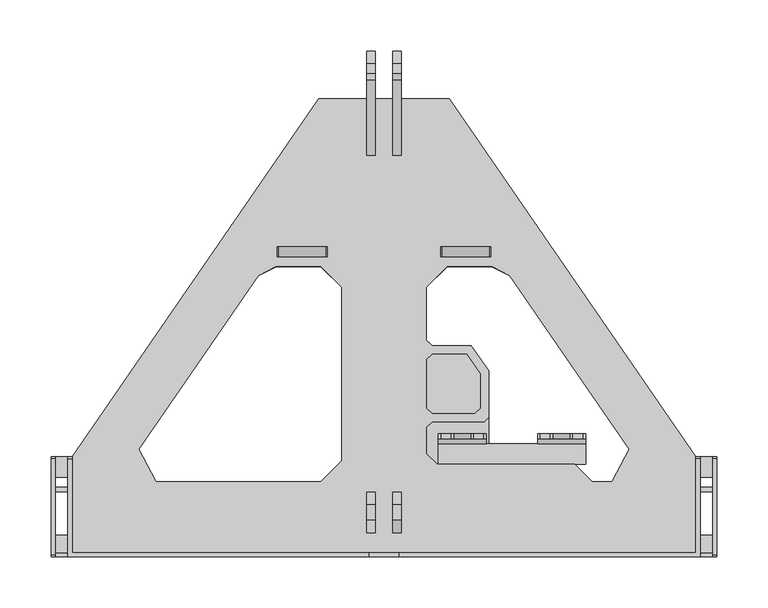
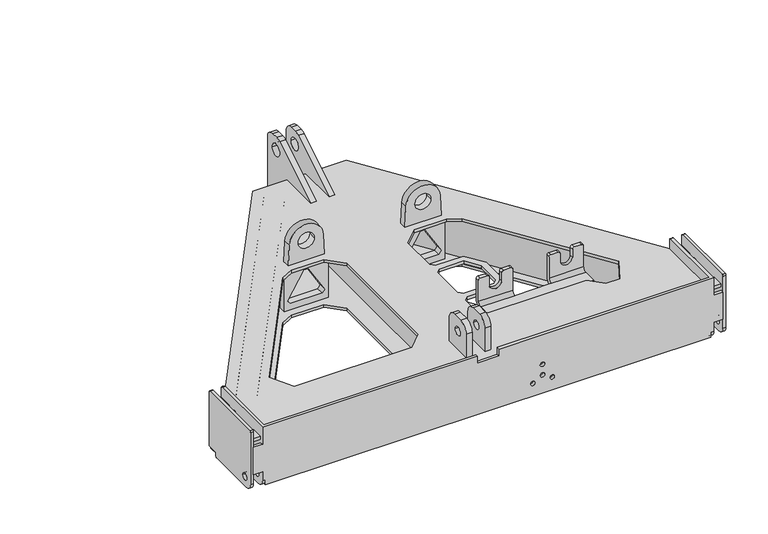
"""IFC4 building model written with IfcOpenShell, lengths in millimetres: proxy geometry, d&b SL-Series XSL Flying Frame : XSL Flying Frame."""

from ifc_helpers import new_model, si_unit, point, frame, frame_2d, origin, origin_2d, place, context, project, spatial, polyline, circle_curve, trimmed, segment, composite_curve, outline, extrude, source, transform, mapped, element, save
from ifc_brep_helpers import plane_surface, cylinder_surface, revolved_surface, advanced_brep


def communication_devices_4d89ff1e(model_context):
    return source(origin(), model_context, "Body", "SolidModel", [
        extrude(outline(polyline([(33.3590884, 410.2339132), (36.6525081, 412.5040204), (272.1761265, 70.8117243), (268.8827068, 68.5416171), (33.3590884, 410.2339132)])), frame((0.0, 0.0, -7.0), z_axis=(0.0, 0.0, 1.0), x_axis=(1.0, 0.0, 0.0)), (0.0, 0.0, 1.0), 61.0),
        extrude(outline(polyline([(0.0, -415.0), (0.0, 0.0), (61.0, 0.0), (61.0, -415.0), (0.0, -415.0)]), holes=[composite_curve([segment(trimmed(circle_curve(frame_2d((37.4760982, -170.1243666)), 12.2), [point((37.4760982, -157.9243666))], [point((37.4760982, -182.3243666))], True, "CARTESIAN"), True, "CONTINUOUS"), segment(trimmed(circle_curve(frame_2d((37.4760982, -170.1243666)), 12.2), [point((37.4760982, -182.3243666))], [point((37.4760982, -157.9243666))], True, "CARTESIAN"), True, "CONTINUOUS")], self_intersect=False)]), frame((53.9429617, 424.422083, 54.0), z_axis=(0.8233549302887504, 0.5675267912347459, 0.0), x_axis=(0.0, 0.0, -1.0)), (0.0, 0.0, 1.0), 4.0),
        extrude(outline(polyline([(-33.3590884, 410.2339132), (-268.8827068, 68.5416171), (-272.1761265, 70.8117243), (-36.6525081, 412.5040204), (-33.3590884, 410.2339132)])), frame((0.0, 0.0, -7.0), z_axis=(0.0, 0.0, 1.0), x_axis=(1.0, 0.0, 0.0)), (0.0, 0.0, 1.0), 61.0),
        extrude(outline(polyline([(-292.7599998, 84.9998941), (-57.2363814, 426.6921901), (-53.9429617, 424.422083), (-289.46658, 82.7297869), (-292.7599998, 84.9998941)])), frame((0.0, 0.0, -7.0), z_axis=(0.0, 0.0, 1.0), x_axis=(1.0, 0.0, 0.0)), (0.0, 0.0, 1.0), 61.0),
        advanced_brep(
        [(100.25, 102.0, 59.0), (100.25, 102.0, 89.5), (97.75, 102.0, 92.0), (87.75, 102.0, 92.0), (85.25, 102.0, 89.5), (85.25, 102.0, 78.0053116), (68.25, 102.0, 78.0053116), (68.25, 102.0, 89.4947994), (65.7447994, 102.0, 92.0), (55.7884157, 102.0, 92.0), (53.25, 102.0, 89.4615843), (53.25, 102.0, 59.0), (53.25, 107.0, 59.0), (53.25, 107.0, 89.4615843), (55.7884157, 107.0, 92.0), (65.7447994, 107.0, 92.0), (68.25, 107.0, 89.4947994), (68.25, 107.0, 78.0053116), (85.25, 107.0, 78.0053116), (85.25, 107.0, 89.5), (87.75, 107.0, 92.0), (97.75, 107.0, 92.0), (100.25, 107.0, 89.5), (100.25, 107.0, 59.0), (100.25, 97.0, 54.2), (100.25, 97.0, 49.0), (53.25, 97.0, 49.0), (53.25, 77.0, 49.0), (53.25, 77.0, 54.2), (53.25, 97.0, 54.2), (197.25, 97.0, 49.0), (197.25, 107.0, 59.0), (197.25, 107.0, 89.5), (197.25, 102.0, 89.5), (197.25, 102.0, 59.0), (197.25, 97.0, 54.2), (197.25, 77.0, 54.2), (197.25, 77.0, 49.0), (150.25, 97.0, 54.2), (150.25, 102.0, 59.0), (150.25, 102.0, 89.4615843), (150.25, 107.0, 89.4615843), (150.25, 107.0, 59.0), (150.25, 97.0, 49.0), (194.75, 102.0, 92.0), (184.75, 102.0, 92.0), (182.25, 102.0, 89.5), (182.25, 102.0, 78.0053116), (165.25, 102.0, 78.0053116), (165.25, 102.0, 89.4947994), (162.7447994, 102.0, 92.0), (152.7884157, 102.0, 92.0), (152.7884157, 107.0, 92.0), (162.7447994, 107.0, 92.0), (165.25, 107.0, 89.4947994), (165.25, 107.0, 78.0053116), (182.25, 107.0, 78.0053116), (182.25, 107.0, 89.5), (184.75, 107.0, 92.0), (194.75, 107.0, 92.0)],
        [
            (0, 1),
            (1, 2, circle_curve(frame((97.75, 102.0, 89.5), z_axis=(0.0, -1.0, 0.0), x_axis=(0.0, 0.0, -1.0)), 2.5)),
            (2, 3),
            (3, 4, circle_curve(frame((87.75, 102.0, 89.5), z_axis=(0.0, -1.0, 0.0), x_axis=(0.0, 0.0, -1.0)), 2.5)),
            (4, 5),
            (5, 6, circle_curve(frame((76.75, 102.0, 78.0053116), z_axis=(0.0, 1.0, 0.0), x_axis=(0.0, 0.0, -1.0)), 8.5)),
            (6, 7),
            (7, 8, circle_curve(frame((65.7447994, 102.0, 89.4947994), z_axis=(0.0, -1.0, 0.0), x_axis=(0.0, 0.0, -1.0)), 2.5052006)),
            (8, 9),
            (9, 10, circle_curve(frame((55.7884157, 102.0, 89.4615843), z_axis=(0.0, -1.0, 0.0), x_axis=(0.0, 0.0, -1.0)), 2.5384157)),
            (10, 11),
            (11, 0),
            (12, 13),
            (13, 14, circle_curve(frame((55.7884157, 107.0, 89.4615843), z_axis=(0.0, 1.0, 0.0), x_axis=(0.0, 0.0, -1.0)), 2.5384157)),
            (14, 15),
            (15, 16, circle_curve(frame((65.7447994, 107.0, 89.4947994), z_axis=(0.0, 1.0, 0.0), x_axis=(0.0, 0.0, -1.0)), 2.5052006)),
            (16, 17),
            (17, 18, circle_curve(frame((76.75, 107.0, 78.0053116), z_axis=(0.0, -1.0, 0.0), x_axis=(0.0, 0.0, -1.0)), 8.5)),
            (18, 19),
            (19, 20, circle_curve(frame((87.75, 107.0, 89.5), z_axis=(0.0, 1.0, 0.0), x_axis=(0.0, 0.0, -1.0)), 2.5)),
            (20, 21),
            (21, 22, circle_curve(frame((97.75, 107.0, 89.5), z_axis=(0.0, 1.0, 0.0), x_axis=(0.0, 0.0, -1.0)), 2.5)),
            (22, 23),
            (23, 12),
            (0, 24, circle_curve(frame((100.25, 97.196, 59.0), z_axis=(-1.0, 0.0, 0.0), x_axis=(0.0, 1.0, 0.0)), 4.804)),
            (24, 25),
            (25, 23, circle_curve(frame((100.25, 97.0, 59.0), z_axis=(1.0, 0.0, 0.0), x_axis=(0.0, 1.0, 0.0)), 10.0)),
            (22, 1),
            (21, 2),
            (20, 3),
            (19, 4),
            (18, 5),
            (17, 6),
            (16, 7),
            (15, 8),
            (14, 9),
            (13, 10),
            (12, 26, circle_curve(frame((53.25, 97.0, 59.0), z_axis=(-1.0, 0.0, 0.0), x_axis=(0.0, 1.0, 0.0)), 10.0)),
            (26, 27),
            (27, 28),
            (28, 29),
            (29, 11, circle_curve(frame((53.25, 97.196, 59.0), z_axis=(1.0, 0.0, 0.0), x_axis=(0.0, 1.0, 0.0)), 4.804)),
            (25, 26),
            (29, 24),
            (30, 31, circle_curve(frame((197.25, 97.0, 59.0), z_axis=(1.0, 0.0, 0.0), x_axis=(0.0, 1.0, 0.0)), 10.0)),
            (31, 32),
            (32, 33),
            (33, 34),
            (34, 35, circle_curve(frame((197.25, 97.196, 59.0), z_axis=(-1.0, 0.0, 0.0), x_axis=(0.0, 1.0, 0.0)), 4.804)),
            (35, 36),
            (36, 37),
            (37, 30),
            (38, 39, circle_curve(frame((150.25, 97.196, 59.0), z_axis=(1.0, 0.0, 0.0), x_axis=(0.0, 1.0, 0.0)), 4.804)),
            (39, 40),
            (40, 41),
            (41, 42),
            (42, 43, circle_curve(frame((150.25, 97.0, 59.0), z_axis=(-1.0, 0.0, 0.0), x_axis=(0.0, 1.0, 0.0)), 10.0)),
            (43, 38),
            (30, 43),
            (42, 31),
            (34, 39),
            (38, 35),
            (28, 36),
            (38, 24),
            (37, 27),
            (25, 43),
            (33, 44, circle_curve(frame((194.75, 102.0, 89.5), z_axis=(0.0, -1.0, 0.0), x_axis=(0.0, 0.0, -1.0)), 2.5)),
            (44, 45),
            (45, 46, circle_curve(frame((184.75, 102.0, 89.5), z_axis=(0.0, -1.0, 0.0), x_axis=(0.0, 0.0, -1.0)), 2.5)),
            (46, 47),
            (47, 48, circle_curve(frame((173.75, 102.0, 78.0053116), z_axis=(0.0, 1.0, 0.0), x_axis=(0.0, 0.0, -1.0)), 8.5)),
            (48, 49),
            (49, 50, circle_curve(frame((162.7447994, 102.0, 89.4947994), z_axis=(0.0, -1.0, 0.0), x_axis=(0.0, 0.0, -1.0)), 2.5052006)),
            (50, 51),
            (51, 40, circle_curve(frame((152.7884157, 102.0, 89.4615843), z_axis=(0.0, -1.0, 0.0), x_axis=(0.0, 0.0, -1.0)), 2.5384157)),
            (41, 52, circle_curve(frame((152.7884157, 107.0, 89.4615843), z_axis=(0.0, 1.0, 0.0), x_axis=(0.0, 0.0, -1.0)), 2.5384157)),
            (52, 53),
            (53, 54, circle_curve(frame((162.7447994, 107.0, 89.4947994), z_axis=(0.0, 1.0, 0.0), x_axis=(0.0, 0.0, -1.0)), 2.5052006)),
            (54, 55),
            (55, 56, circle_curve(frame((173.75, 107.0, 78.0053116), z_axis=(0.0, -1.0, 0.0), x_axis=(0.0, 0.0, -1.0)), 8.5)),
            (56, 57),
            (57, 58, circle_curve(frame((184.75, 107.0, 89.5), z_axis=(0.0, 1.0, 0.0), x_axis=(0.0, 0.0, -1.0)), 2.5)),
            (58, 59),
            (59, 32, circle_curve(frame((194.75, 107.0, 89.5), z_axis=(0.0, 1.0, 0.0), x_axis=(0.0, 0.0, -1.0)), 2.5)),
            (59, 44),
            (58, 45),
            (57, 46),
            (56, 47),
            (55, 48),
            (54, 49),
            (53, 50),
            (52, 51),
        ],
        [
            plane_surface(frame((100.25, 102.0, 59.0), z_axis=(0.0, -1.0, 0.0), x_axis=(0.0, 0.0, 1.0))),
            plane_surface(frame((100.25, 107.0, 59.0), z_axis=(0.0, 1.0, 0.0), x_axis=(0.0, 0.0, -1.0))),
            plane_surface(frame((100.25, 102.0, 59.0), z_axis=(1.0, 0.0, 0.0), x_axis=(0.0, 1.0, 0.0))),
            cylinder_surface(frame((97.75, 107.0, 89.5), z_axis=(0.0, -1.0, 0.0), x_axis=(0.0, 0.0, -1.0)), 2.5),
            plane_surface(frame((97.75, 102.0, 92.0), z_axis=(0.0, 0.0, 1.0), x_axis=(0.0, 1.0, 0.0))),
            cylinder_surface(frame((87.75, 107.0, 89.5), z_axis=(0.0, -1.0, 0.0), x_axis=(0.0, 0.0, -1.0)), 2.5),
            plane_surface(frame((85.25, 102.0, 89.5), z_axis=(-1.0, 0.0, 0.0), x_axis=(0.0, 1.0, 0.0))),
            revolved_surface(polyline([(76.75, 107.0, 69.5053116), (76.75, 102.0, 69.5053116)]), (76.75, 107.0, 78.0053116), (0.0, 1.0, 0.0)),
            plane_surface(frame((68.25, 102.0, 78.0053116), z_axis=(1.0, 0.0, 0.0), x_axis=(0.0, 1.0, 0.0))),
            cylinder_surface(frame((65.7447994, 107.0, 89.4947994), z_axis=(0.0, -1.0, 0.0), x_axis=(0.0, 0.0, -1.0)), 2.5052006),
            plane_surface(frame((65.7447994, 102.0, 92.0), z_axis=(0.0, 0.0, 1.0), x_axis=(0.0, 1.0, 0.0))),
            cylinder_surface(frame((55.7884157, 107.0, 89.4615843), z_axis=(0.0, -1.0, 0.0), x_axis=(0.0, 0.0, -1.0)), 2.5384157),
            plane_surface(frame((53.25, 102.0, 89.4615843), z_axis=(-1.0, 0.0, 0.0), x_axis=(0.0, 1.0, 0.0))),
            cylinder_surface(frame((53.25, 97.0, 59.0), z_axis=(1.0, 0.0, 0.0), x_axis=(0.0, 1.0, 0.0)), 10.0),
            revolved_surface(polyline([(53.25, 102.0, 59.0), (100.25, 102.0, 59.0)]), (53.25, 97.196, 59.0), (-1.0, 0.0, 0.0)),
            plane_surface(frame((197.25, 107.0, 59.0), z_axis=(1.0, 0.0, 0.0), x_axis=(0.0, 0.0, 1.0))),
            plane_surface(frame((150.25, 107.0, 59.0), z_axis=(-1.0, 0.0, 0.0), x_axis=(0.0, 0.0, -1.0))),
            cylinder_surface(frame((150.25, 97.0, 59.0), z_axis=(1.0, 0.0, 0.0), x_axis=(0.0, 1.0, 0.0)), 10.0),
            revolved_surface(polyline([(150.25, 102.0, 59.0), (197.25, 102.0, 59.0)]), (150.25, 97.196, 59.0), (-1.0, 0.0, 0.0)),
            plane_surface(frame((102.7499965, 97.0, 54.2), z_axis=(0.0, 0.0, 1.0), x_axis=(-1.0, 0.0, 0.0))),
            plane_surface(frame((102.7499965, 97.0, 49.0), z_axis=(0.0, 0.0, -1.0), x_axis=(1.0, 0.0, 0.0))),
            plane_surface(frame((197.25, 97.0, 54.2), z_axis=(0.0, 1.0, 0.0), x_axis=(0.0, 0.0, -1.0))),
            plane_surface(frame((53.25, 77.0, 54.2), z_axis=(0.0, -1.0, 0.0), x_axis=(0.0, 0.0, -1.0))),
            plane_surface(frame((197.25, 102.0, 59.0), z_axis=(0.0, -1.0, 0.0), x_axis=(0.0, 0.0, 1.0))),
            plane_surface(frame((197.25, 107.0, 59.0), z_axis=(0.0, 1.0, 0.0), x_axis=(0.0, 0.0, -1.0))),
            cylinder_surface(frame((194.75, 107.0, 89.5), z_axis=(0.0, -1.0, 0.0), x_axis=(0.0, 0.0, -1.0)), 2.5),
            plane_surface(frame((194.75, 102.0, 92.0), z_axis=(0.0, 0.0, 1.0), x_axis=(0.0, 1.0, 0.0))),
            cylinder_surface(frame((184.75, 107.0, 89.5), z_axis=(0.0, -1.0, 0.0), x_axis=(0.0, 0.0, -1.0)), 2.5),
            plane_surface(frame((182.25, 102.0, 89.5), z_axis=(-1.0, 0.0, 0.0), x_axis=(0.0, 1.0, 0.0))),
            revolved_surface(polyline([(173.75, 107.0, 69.5053116), (173.75, 102.0, 69.5053116)]), (173.75, 107.0, 78.0053116), (0.0, 1.0, 0.0)),
            plane_surface(frame((165.25, 102.0, 78.0053116), z_axis=(1.0, 0.0, 0.0), x_axis=(0.0, 1.0, 0.0))),
            cylinder_surface(frame((162.7447994, 107.0, 89.4947994), z_axis=(0.0, -1.0, 0.0), x_axis=(0.0, 0.0, -1.0)), 2.5052006),
            plane_surface(frame((162.7447994, 102.0, 92.0), z_axis=(0.0, 0.0, 1.0), x_axis=(0.0, 1.0, 0.0))),
            cylinder_surface(frame((152.7884157, 107.0, 89.4615843), z_axis=(0.0, -1.0, 0.0), x_axis=(0.0, 0.0, -1.0)), 2.5384157),
        ],
        [
            (0, [[1, 2, 3, 4, 5, 6, 7, 8, 9, 10, 11, 12]]),
            (1, [[13, 14, 15, 16, 17, 18, 19, 20, 21, 22, 23, 24]]),
            (2, [[-1, 25, 26, 27, -23, 28]]),
            (3, [[-2, -28, -22, 29]]),
            (4, [[-3, -29, -21, 30]]),
            (5, [[-4, -30, -20, 31]]),
            (6, [[-5, -31, -19, 32]]),
            (7, [[-6, -32, -18, 33]]),
            (8, [[-7, -33, -17, 34]]),
            (9, [[-8, -34, -16, 35]]),
            (10, [[-9, -35, -15, 36]]),
            (11, [[-10, -36, -14, 37]]),
            (12, [[-11, -37, -13, 38, 39, 40, 41, 42]]),
            (13, [[-27, 43, -38, -24]]),
            (14, [[-25, -12, -42, 44]]),
            (15, [[45, 46, 47, 48, 49, 50, 51, 52]]),
            (16, [[53, 54, 55, 56, 57, 58]]),
            (17, [[-45, 59, -57, 60]]),
            (18, [[-49, 61, -53, 62]]),
            (19, [[-41, 63, -50, -62, 64, -44]]),
            (20, [[-52, 65, -39, -43, 66, -59]]),
            (21, [[-64, -58, -66, -26]]),
            (22, [[-63, -40, -65, -51]]),
            (23, [[-48, 67, 68, 69, 70, 71, 72, 73, 74, 75, -54, -61]]),
            (24, [[-56, 76, 77, 78, 79, 80, 81, 82, 83, 84, -46, -60]]),
            (25, [[-67, -47, -84, 85]]),
            (26, [[-68, -85, -83, 86]]),
            (27, [[-69, -86, -82, 87]]),
            (28, [[-70, -87, -81, 88]]),
            (29, [[-71, -88, -80, 89]]),
            (30, [[-72, -89, -79, 90]]),
            (31, [[-73, -90, -78, 91]]),
            (32, [[-74, -91, -77, 92]]),
            (33, [[-75, -92, -76, -55]]),
        ],
    ),
        extrude(outline(polyline([(54.0, -50.0), (54.0, -110.0), (-7.0, -110.0), (-7.0, -50.0), (54.0, -50.0)]), holes=[polyline([(44.5, -77.2168689), (6.8638503, -54.6407459), (2.5, -58.1309795), (2.5, -101.8690205), (6.8638503, -105.3592541), (44.5, -82.7831311), (44.5, -77.2168689)])]), frame((0.0, 280.0, 0.0), z_axis=(0.0, 1.0, 0.0), x_axis=(0.0, 0.0, 1.0)), (0.0, 0.0, 1.0), 10.0),
        extrude(outline(polyline([(54.0, 50.0), (-7.0, 50.0), (-7.0, 110.0), (54.0, 110.0), (54.0, 50.0)]), holes=[polyline([(44.5, 77.2168689), (44.5, 82.7831311), (6.8638503, 105.3592541), (2.5, 101.8690205), (2.5, 58.1309795), (6.8638503, 54.6407459), (44.5, 77.2168689)])]), frame((0.0, 280.0, 0.0), z_axis=(0.0, 1.0, 0.0), x_axis=(0.0, 0.0, 1.0)), (0.0, 0.0, 1.0), 10.0),
        extrude(outline(composite_curve([segment(polyline([(54.25, -7.0), (54.25, 54.0), (434.5, 54.0), (434.5, 58.0), (379.2840956, 58.0), (452.524521, 102.6031015)]), True, "CONTINUOUS"), segment(trimmed(circle_curve(frame_2d((459.2862617, 91.5)), 13.0), [point((452.524521, 102.6031015))], [point((459.2862617, 104.5))], False, "CARTESIAN"), True, "CONTINUOUS"), segment(polyline([(459.2862617, 104.5), (468.75, 104.5)]), True, "CONTINUOUS"), segment(trimmed(circle_curve(frame_2d((468.75, 92.0)), 12.5), [point((468.75, 104.5))], [point((481.25, 92.0))], False, "CARTESIAN"), True, "CONTINUOUS"), segment(polyline([(481.25, 92.0), (481.25, 5.0)]), True, "CONTINUOUS"), segment(trimmed(circle_curve(frame_2d((469.25, 5.0)), 12.0), [point((481.25, 5.0))], [point((469.25, -7.0))], False, "CARTESIAN"), True, "CONTINUOUS"), segment(polyline([(469.25, -7.0), (54.25, -7.0)]), True, "CONTINUOUS")], self_intersect=False), holes=[composite_curve([segment(trimmed(circle_curve(frame_2d((461.25, 10.9847305)), 8.5), [point((452.75, 10.9847305))], [point((469.75, 10.9847305))], True, "CARTESIAN"), True, "CONTINUOUS"), segment(trimmed(circle_curve(frame_2d((461.25, 10.9847305)), 8.5), [point((469.75, 10.9847305))], [point((452.75, 10.9847305))], True, "CARTESIAN"), True, "CONTINUOUS")], self_intersect=False), composite_curve([segment(trimmed(circle_curve(frame_2d((461.25, 85.0029766)), 8.5), [point((452.75, 85.0029766))], [point((469.75, 85.0029766))], True, "CARTESIAN"), True, "CONTINUOUS"), segment(trimmed(circle_curve(frame_2d((461.25, 85.0029766)), 8.5), [point((469.75, 85.0029766))], [point((452.75, 85.0029766))], True, "CARTESIAN"), True, "CONTINUOUS")], self_intersect=False)]), frame((-16.75, 0.0, 0.0), z_axis=(1.0, 0.0, 0.0), x_axis=(0.0, 1.0, 0.0)), (0.0, 0.0, 1.0), 8.0),
        extrude(outline(composite_curve([segment(polyline([(49.75, 58.0), (9.75, 58.0), (9.75, 92.0)]), True, "CONTINUOUS"), segment(trimmed(circle_curve(frame_2d((22.25, 92.0)), 12.5), [point((9.75, 92.0))], [point((22.25, 104.5))], False, "CARTESIAN"), True, "CONTINUOUS"), segment(polyline([(22.25, 104.5), (37.25, 104.5)]), True, "CONTINUOUS"), segment(trimmed(circle_curve(frame_2d((37.25, 92.0)), 12.5), [point((37.25, 104.5))], [point((49.75, 92.0))], False, "CARTESIAN"), True, "CONTINUOUS"), segment(polyline([(49.75, 92.0), (49.75, 58.0)]), True, "CONTINUOUS")], self_intersect=False), holes=[composite_curve([segment(trimmed(circle_curve(frame_2d((29.75, 84.5800468)), 5.9), [point((23.85, 84.5800468))], [point((35.65, 84.5800468))], True, "CARTESIAN"), True, "CONTINUOUS"), segment(trimmed(circle_curve(frame_2d((29.75, 84.5800468)), 5.9), [point((35.65, 84.5800468))], [point((23.85, 84.5800468))], True, "CARTESIAN"), True, "CONTINUOUS")], self_intersect=False)]), frame((-16.75, 0.0, 0.0), z_axis=(1.0, 0.0, 0.0), x_axis=(0.0, 1.0, 0.0)), (0.0, 0.0, 1.0), 8.0),
        extrude(outline(composite_curve([segment(polyline([(54.25, -7.0), (54.25, 54.0), (434.5, 54.0), (434.5, 58.0), (379.2840956, 58.0), (452.524521, 102.6031015)]), True, "CONTINUOUS"), segment(trimmed(circle_curve(frame_2d((459.2862617, 91.5)), 13.0), [point((452.524521, 102.6031015))], [point((459.2862617, 104.5))], False, "CARTESIAN"), True, "CONTINUOUS"), segment(polyline([(459.2862617, 104.5), (468.75, 104.5)]), True, "CONTINUOUS"), segment(trimmed(circle_curve(frame_2d((468.75, 92.0)), 12.5), [point((468.75, 104.5))], [point((481.25, 92.0))], False, "CARTESIAN"), True, "CONTINUOUS"), segment(polyline([(481.25, 92.0), (481.25, 5.0)]), True, "CONTINUOUS"), segment(trimmed(circle_curve(frame_2d((469.25, 5.0)), 12.0), [point((481.25, 5.0))], [point((469.25, -7.0))], False, "CARTESIAN"), True, "CONTINUOUS"), segment(polyline([(469.25, -7.0), (54.25, -7.0)]), True, "CONTINUOUS")], self_intersect=False), holes=[composite_curve([segment(trimmed(circle_curve(frame_2d((461.25, 85.0029766)), 8.5), [point((452.75, 85.0029766))], [point((469.75, 85.0029766))], True, "CARTESIAN"), True, "CONTINUOUS"), segment(trimmed(circle_curve(frame_2d((461.25, 85.0029766)), 8.5), [point((469.75, 85.0029766))], [point((452.75, 85.0029766))], True, "CARTESIAN"), True, "CONTINUOUS")], self_intersect=False), composite_curve([segment(trimmed(circle_curve(frame_2d((461.25, 10.9847305)), 8.5), [point((452.75, 10.9847305))], [point((469.75, 10.9847305))], True, "CARTESIAN"), True, "CONTINUOUS"), segment(trimmed(circle_curve(frame_2d((461.25, 10.9847305)), 8.5), [point((469.75, 10.9847305))], [point((452.75, 10.9847305))], True, "CARTESIAN"), True, "CONTINUOUS")], self_intersect=False)]), frame((8.75, 0.0, 0.0), z_axis=(1.0, 0.0, 0.0), x_axis=(0.0, 1.0, 0.0)), (0.0, 0.0, 1.0), 8.0),
        extrude(outline(composite_curve([segment(polyline([(49.75, 58.0), (9.75, 58.0), (9.75, 92.0)]), True, "CONTINUOUS"), segment(trimmed(circle_curve(frame_2d((22.25, 92.0)), 12.5), [point((9.75, 92.0))], [point((22.25, 104.5))], False, "CARTESIAN"), True, "CONTINUOUS"), segment(polyline([(22.25, 104.5), (37.25, 104.5)]), True, "CONTINUOUS"), segment(trimmed(circle_curve(frame_2d((37.25, 92.0)), 12.5), [point((37.25, 104.5))], [point((49.75, 92.0))], False, "CARTESIAN"), True, "CONTINUOUS"), segment(polyline([(49.75, 92.0), (49.75, 58.0)]), True, "CONTINUOUS")], self_intersect=False), holes=[composite_curve([segment(trimmed(circle_curve(frame_2d((29.75, 84.5800468)), 5.9), [point((23.85, 84.5800468))], [point((35.65, 84.5800468))], True, "CARTESIAN"), True, "CONTINUOUS"), segment(trimmed(circle_curve(frame_2d((29.75, 84.5800468)), 5.9), [point((35.65, 84.5800468))], [point((23.85, 84.5800468))], True, "CARTESIAN"), True, "CONTINUOUS")], self_intersect=False)]), frame((8.75, 0.0, 0.0), z_axis=(1.0, 0.0, 0.0), x_axis=(0.0, 1.0, 0.0)), (0.0, 0.0, 1.0), 8.0),
        extrude(outline(composite_curve([segment(polyline([(87.1237421, -103.4731537), (58.0, -104.8156191), (58.0, -55.1843809), (87.1237421, -56.5268463)]), True, "CONTINUOUS"), segment(trimmed(circle_curve(frame_2d((86.0417417, -80.0)), 23.4980779), [point((87.1237421, -56.5268463))], [point((87.1237421, -103.4731537))], False, "CARTESIAN"), True, "CONTINUOUS")], self_intersect=False), holes=[composite_curve([segment(trimmed(circle_curve(frame_2d((86.5104917, -80.0)), 11.0379931), [point((86.5104917, -68.9620069))], [point((86.5104917, -91.0379931))], True, "CARTESIAN"), True, "CONTINUOUS"), segment(trimmed(circle_curve(frame_2d((86.5104917, -80.0)), 11.0379931), [point((86.5104917, -91.0379931))], [point((86.5104917, -68.9620069))], True, "CARTESIAN"), True, "CONTINUOUS")], self_intersect=False)]), frame((0.0, 280.0, 0.0), z_axis=(0.0, 1.0, 0.0), x_axis=(0.0, 0.0, 1.0)), (0.0, 0.0, 1.0), 10.0),
        extrude(outline(composite_curve([segment(trimmed(circle_curve(frame_2d((86.0417417, 80.0)), 23.4980779), [point((87.1237421, 103.4731537))], [point((87.1237421, 56.5268463))], False, "CARTESIAN"), True, "CONTINUOUS"), segment(polyline([(87.1237421, 56.5268463), (58.0, 55.1843809), (58.0, 104.8156191), (87.1237421, 103.4731537)]), True, "CONTINUOUS")], self_intersect=False), holes=[composite_curve([segment(trimmed(circle_curve(frame_2d((86.5104917, 80.0)), 11.0379931), [point((86.5104917, 91.0379931))], [point((86.5104917, 68.9620069))], True, "CARTESIAN"), True, "CONTINUOUS"), segment(trimmed(circle_curve(frame_2d((86.5104917, 80.0)), 11.0379931), [point((86.5104917, 68.9620069))], [point((86.5104917, 91.0379931))], True, "CARTESIAN"), True, "CONTINUOUS")], self_intersect=False)]), frame((0.0, 280.0, 0.0), z_axis=(0.0, 1.0, 0.0), x_axis=(0.0, 0.0, 1.0)), (0.0, 0.0, 1.0), 10.0),
        advanced_brep(
        [(321.75, -9.5, 48.75), (321.75, -9.5, 9.25), (309.25, -9.5, 9.25), (309.25, -9.5, 48.75), (-309.25, -9.5, 9.25), (-321.75, -9.5, 9.25), (-321.75, -9.5, 48.75), (-309.25, -9.5, 48.75), (-305.25, -9.5, 73.5), (-15.0, -9.5, 73.5), (-15.0, -9.5, 63.5), (15.0, -9.5, 63.5), (15.0, -9.5, 73.5), (305.25, -9.5, 73.5), (305.25, -9.5, 48.75), (305.25, -9.5, -3.5), (305.25, -9.5, -11.0), (-305.25, -9.5, -11.0), (-305.25, -9.5, -3.5), (-305.25, -9.5, 48.75), (71.4942183, -9.5, 30.5897525), (77.4942183, -9.5, 30.5897525), (71.4942183, -9.5, 15.2772525), (77.4942183, -9.5, 15.2772525), (58.1715903, -9.5, 7.5854296), (64.1715903, -9.5, 7.5854296), (84.8168464, -9.5, 7.5854296), (90.8168464, -9.5, 7.5854296), (-321.75, -13.5, 48.75), (-321.75, -13.5, 9.25), (-309.25, -13.5, 9.25), (-309.25, -13.5, -3.5), (-305.25, -13.5, -3.5), (-305.25, -13.5, -11.0), (305.25, -13.5, -11.0), (305.25, -13.5, -3.5), (309.25, -13.5, -3.5), (309.25, -13.5, 9.25), (321.75, -13.5, 9.25), (321.75, -13.5, 48.75), (309.25, -13.5, 48.75), (309.25, -13.5, 73.5), (15.0, -13.5, 73.5), (15.0, -13.5, 63.5), (-15.0, -13.5, 63.5), (-15.0, -13.5, 73.5), (-309.25, -13.5, 73.5), (-309.25, -13.5, 48.75), (71.4942183, -13.5, 30.5897525), (77.4942183, -13.5, 30.5897525), (71.4942183, -13.5, 15.2772525), (77.4942183, -13.5, 15.2772525), (58.1715903, -13.5, 7.5854296), (64.1715903, -13.5, 7.5854296), (84.8168464, -13.5, 7.5854296), (90.8168464, -13.5, 7.5854296), (-309.25, 82.5, 73.5), (-309.25, 84.5, 71.5), (-309.25, 84.5, -7.0), (-309.25, 64.5, -7.0), (-309.25, 64.5, -11.5), (-309.25, 62.5, -13.5), (-309.25, -3.5, -13.5), (-309.25, -4.6643921, 0.0), (-309.25, 4.6643921, 0.0), (305.25, -10.1143783, -11.0), (-305.25, -10.1143783, -11.0), (309.25, -3.5, -13.5), (309.25, 62.5, -13.5), (309.25, 64.5, -11.5), (309.25, 64.5, -7.0), (309.25, 84.5, -7.0), (309.25, 84.5, 71.5), (309.25, 82.5, 73.5), (309.25, -4.6643921, 0.0), (309.25, 4.6643921, 0.0), (305.25, 82.5, 73.5), (-305.25, -3.5, -13.5), (-305.25, 62.5, -13.5), (-305.25, 64.5, -11.5), (-305.25, 64.5, -7.0), (-305.25, 84.5, -7.0), (-305.25, 84.5, 71.5), (-305.25, 82.5, 73.5), (-305.25, -4.6643921, 0.0), (-305.25, 4.6643921, 0.0), (305.25, 84.5, 71.5), (305.25, 84.5, -7.0), (305.25, 64.5, -7.0), (305.25, 64.5, -11.5), (305.25, 62.5, -13.5), (305.25, -3.5, -13.5), (305.25, -4.6643921, 0.0), (305.25, 4.6643921, 0.0)],
        [
            (0, 1),
            (1, 2),
            (2, 3),
            (3, 0),
            (4, 5),
            (5, 6),
            (6, 7),
            (7, 4),
            (8, 9),
            (9, 10),
            (10, 11),
            (11, 12),
            (12, 13),
            (13, 14),
            (14, 15),
            (15, 16),
            (16, 17),
            (17, 18),
            (18, 19),
            (19, 8),
            (20, 21, circle_curve(frame((74.4942183, -9.5, 30.5897525), z_axis=(0.0, -1.0, 0.0), x_axis=(1.0, 0.0, 0.0)), 3.0)),
            (21, 20, circle_curve(frame((74.4942183, -9.5, 30.5897525), z_axis=(0.0, -1.0, 0.0), x_axis=(1.0, 0.0, 0.0)), 3.0)),
            (22, 23, circle_curve(frame((74.4942183, -9.5, 15.2772525), z_axis=(0.0, -1.0, 0.0), x_axis=(1.0, 0.0, 0.0)), 3.0)),
            (23, 22, circle_curve(frame((74.4942183, -9.5, 15.2772525), z_axis=(0.0, -1.0, 0.0), x_axis=(1.0, 0.0, 0.0)), 3.0)),
            (24, 25, circle_curve(frame((61.1715903, -9.5, 7.5854296), z_axis=(0.0, -1.0, 0.0), x_axis=(1.0, 0.0, 0.0)), 3.0)),
            (25, 24, circle_curve(frame((61.1715903, -9.5, 7.5854296), z_axis=(0.0, -1.0, 0.0), x_axis=(1.0, 0.0, 0.0)), 3.0)),
            (26, 27, circle_curve(frame((87.8168464, -9.5, 7.5854296), z_axis=(0.0, -1.0, 0.0), x_axis=(1.0, 0.0, 0.0)), 3.0)),
            (27, 26, circle_curve(frame((87.8168464, -9.5, 7.5854296), z_axis=(0.0, -1.0, 0.0), x_axis=(1.0, 0.0, 0.0)), 3.0)),
            (28, 29),
            (29, 30),
            (30, 31),
            (31, 32),
            (32, 33),
            (33, 34),
            (34, 35),
            (35, 36),
            (36, 37),
            (37, 38),
            (38, 39),
            (39, 40),
            (40, 41),
            (41, 42),
            (42, 43),
            (43, 44),
            (44, 45),
            (45, 46),
            (46, 47),
            (47, 28),
            (48, 49, circle_curve(frame((74.4942183, -13.5, 30.5897525), z_axis=(0.0, 1.0, 0.0), x_axis=(1.0, 0.0, 0.0)), 3.0)),
            (49, 48, circle_curve(frame((74.4942183, -13.5, 30.5897525), z_axis=(0.0, 1.0, 0.0), x_axis=(1.0, 0.0, 0.0)), 3.0)),
            (50, 51, circle_curve(frame((74.4942183, -13.5, 15.2772525), z_axis=(0.0, 1.0, 0.0), x_axis=(1.0, 0.0, 0.0)), 3.0)),
            (51, 50, circle_curve(frame((74.4942183, -13.5, 15.2772525), z_axis=(0.0, 1.0, 0.0), x_axis=(1.0, 0.0, 0.0)), 3.0)),
            (52, 53, circle_curve(frame((61.1715903, -13.5, 7.5854296), z_axis=(0.0, 1.0, 0.0), x_axis=(1.0, 0.0, 0.0)), 3.0)),
            (53, 52, circle_curve(frame((61.1715903, -13.5, 7.5854296), z_axis=(0.0, 1.0, 0.0), x_axis=(1.0, 0.0, 0.0)), 3.0)),
            (54, 55, circle_curve(frame((87.8168464, -13.5, 7.5854296), z_axis=(0.0, 1.0, 0.0), x_axis=(1.0, 0.0, 0.0)), 3.0)),
            (55, 54, circle_curve(frame((87.8168464, -13.5, 7.5854296), z_axis=(0.0, 1.0, 0.0), x_axis=(1.0, 0.0, 0.0)), 3.0)),
            (5, 29),
            (28, 6),
            (4, 30),
            (7, 47),
            (46, 56),
            (56, 57, circle_curve(frame((-309.25, 82.5, 71.5), z_axis=(-1.0, 0.0, 0.0), x_axis=(0.0, 1.0, 0.0)), 2.0)),
            (57, 58),
            (58, 59),
            (59, 60),
            (60, 61, circle_curve(frame((-309.25, 62.5, -11.5), z_axis=(-1.0, 0.0, 0.0), x_axis=(0.0, 1.0, 0.0)), 2.0)),
            (61, 62),
            (62, 31, circle_curve(frame((-309.25, -3.5, -3.5), z_axis=(-1.0, 0.0, 0.0), x_axis=(0.0, 1.0, 0.0)), 10.0)),
            (63, 64, circle_curve(frame((-309.25, 0.0, 0.0), z_axis=(1.0, 0.0, 0.0), x_axis=(0.0, 1.0, 0.0)), 4.6643921)),
            (64, 63, circle_curve(frame((-309.25, 0.0, 0.0), z_axis=(1.0, 0.0, 0.0), x_axis=(0.0, 1.0, 0.0)), 4.6643921)),
            (16, 65),
            (65, 34),
            (33, 66),
            (66, 17),
            (36, 67, circle_curve(frame((309.25, -3.5, -3.5), z_axis=(1.0, 0.0, 0.0), x_axis=(0.0, 1.0, 0.0)), 10.0)),
            (67, 68),
            (68, 69, circle_curve(frame((309.25, 62.5, -11.5), z_axis=(1.0, 0.0, 0.0), x_axis=(0.0, 1.0, 0.0)), 2.0)),
            (69, 70),
            (70, 71),
            (71, 72),
            (72, 73, circle_curve(frame((309.25, 82.5, 71.5), z_axis=(1.0, 0.0, 0.0), x_axis=(0.0, 1.0, 0.0)), 2.0)),
            (73, 41),
            (40, 3),
            (2, 37),
            (74, 75, circle_curve(frame((309.25, 0.0, 0.0), z_axis=(-1.0, 0.0, 0.0), x_axis=(0.0, 1.0, 0.0)), 4.6643921)),
            (75, 74, circle_curve(frame((309.25, 0.0, 0.0), z_axis=(-1.0, 0.0, 0.0), x_axis=(0.0, 1.0, 0.0)), 4.6643921)),
            (1, 38),
            (0, 39),
            (12, 42),
            (73, 76),
            (76, 13),
            (32, 66, circle_curve(frame((-305.25, -3.5, -3.5), z_axis=(1.0, 0.0, 0.0), x_axis=(0.0, 1.0, 0.0)), 10.0)),
            (65, 35, circle_curve(frame((305.25, -3.5, -3.5), z_axis=(-1.0, 0.0, 0.0), x_axis=(0.0, 1.0, 0.0)), 10.0)),
            (77, 78),
            (78, 79, circle_curve(frame((-305.25, 62.5, -11.5), z_axis=(1.0, 0.0, 0.0), x_axis=(0.0, 1.0, 0.0)), 2.0)),
            (79, 80),
            (80, 81),
            (81, 82),
            (82, 83, circle_curve(frame((-305.25, 82.5, 71.5), z_axis=(1.0, 0.0, 0.0), x_axis=(0.0, 1.0, 0.0)), 2.0)),
            (83, 8),
            (66, 77, circle_curve(frame((-305.25, -3.5, -3.5), z_axis=(1.0, 0.0, 0.0), x_axis=(0.0, 1.0, 0.0)), 10.0)),
            (84, 85, circle_curve(frame((-305.25, 0.0, 0.0), z_axis=(-1.0, 0.0, 0.0), x_axis=(0.0, 1.0, 0.0)), 4.6643921)),
            (85, 84, circle_curve(frame((-305.25, 0.0, 0.0), z_axis=(-1.0, 0.0, 0.0), x_axis=(0.0, 1.0, 0.0)), 4.6643921)),
            (77, 62),
            (61, 78),
            (60, 79),
            (59, 80),
            (81, 58),
            (57, 82),
            (56, 83),
            (84, 63),
            (64, 85),
            (76, 86, circle_curve(frame((305.25, 82.5, 71.5), z_axis=(-1.0, 0.0, 0.0), x_axis=(0.0, 1.0, 0.0)), 2.0)),
            (86, 87),
            (87, 88),
            (88, 89),
            (89, 90, circle_curve(frame((305.25, 62.5, -11.5), z_axis=(-1.0, 0.0, 0.0), x_axis=(0.0, 1.0, 0.0)), 2.0)),
            (90, 91),
            (91, 65, circle_curve(frame((305.25, -3.5, -3.5), z_axis=(-1.0, 0.0, 0.0), x_axis=(0.0, 1.0, 0.0)), 10.0)),
            (92, 93, circle_curve(frame((305.25, 0.0, 0.0), z_axis=(1.0, 0.0, 0.0), x_axis=(0.0, 1.0, 0.0)), 4.6643921)),
            (93, 92, circle_curve(frame((305.25, 0.0, 0.0), z_axis=(1.0, 0.0, 0.0), x_axis=(0.0, 1.0, 0.0)), 4.6643921)),
            (90, 68),
            (67, 91),
            (89, 69),
            (88, 70),
            (86, 72),
            (71, 87),
            (93, 75),
            (74, 92),
            (20, 48),
            (49, 21),
            (22, 50),
            (51, 23),
            (24, 52),
            (53, 25),
            (26, 54),
            (55, 27),
            (11, 43),
            (10, 44),
            (9, 45),
        ],
        [
            plane_surface(frame((-321.75, -9.5, -13.5), z_axis=(0.0, 1.0, 0.0), x_axis=(0.0, 0.0, 1.0))),
            plane_surface(frame((-321.75, -13.5, -13.5), z_axis=(0.0, -1.0, 0.0), x_axis=(0.0, 0.0, -1.0))),
            plane_surface(frame((-321.75, -13.5, 48.75), z_axis=(-1.0, 0.0, 0.0), x_axis=(0.0, 1.0, 0.0))),
            plane_surface(frame((-321.75, -13.5, 9.25), z_axis=(0.0, 0.0, -1.0), x_axis=(0.0, 1.0, 0.0))),
            plane_surface(frame((-309.25, -13.5, 9.25), z_axis=(-1.0, 0.0, 0.0), x_axis=(0.0, 1.0, 0.0))),
            plane_surface(frame((-305.25, -13.5, -11.0), z_axis=(0.0, 0.0, -1.0), x_axis=(0.0, 1.0, 0.0))),
            plane_surface(frame((309.25, -13.5, -3.5), z_axis=(1.0, 0.0, 0.0), x_axis=(0.0, 1.0, 0.0))),
            plane_surface(frame((309.25, -13.5, 9.25), z_axis=(0.0, 0.0, -1.0), x_axis=(0.0, 1.0, 0.0))),
            plane_surface(frame((321.75, -13.5, 9.25), z_axis=(1.0, 0.0, 0.0), x_axis=(0.0, 1.0, 0.0))),
            plane_surface(frame((321.75, -13.5, 48.75), z_axis=(0.0, 0.0, 1.0), x_axis=(0.0, 1.0, 0.0))),
            plane_surface(frame((305.25, -13.5, 73.5), z_axis=(0.0, 0.0, 1.0), x_axis=(0.0, 1.0, 0.0))),
            plane_surface(frame((-305.25, -13.5, 48.75), z_axis=(0.0, 0.0, 1.0), x_axis=(0.0, 1.0, 0.0))),
            plane_surface(frame((-305.25, -13.5, -3.5), z_axis=(-1.0, 0.0, 0.0), x_axis=(0.0, 1.0, 0.0))),
            plane_surface(frame((305.25, -13.5, -11.0), z_axis=(1.0, 0.0, 0.0), x_axis=(0.0, 1.0, 0.0))),
            plane_surface(frame((-305.25, -13.5, 73.5), z_axis=(1.0, 0.0, 0.0), x_axis=(0.0, 0.0, -1.0))),
            plane_surface(frame((-305.25, -3.5, -13.5), z_axis=(0.0, 0.0, -1.0), x_axis=(-1.0, 0.0, 0.0))),
            cylinder_surface(frame((-309.25, 62.5, -11.5), z_axis=(1.0, 0.0, 0.0), x_axis=(0.0, 1.0, 0.0)), 2.0),
            plane_surface(frame((-305.25, 64.5, -11.5), z_axis=(0.0, 1.0, 0.0), x_axis=(-1.0, 0.0, 0.0))),
            plane_surface(frame((-305.25, 84.5, -7.0), z_axis=(0.0, 1.0, 0.0), x_axis=(-1.0, 0.0, 0.0))),
            cylinder_surface(frame((-309.25, -3.5, -3.5), z_axis=(1.0, 0.0, 0.0), x_axis=(0.0, 1.0, 0.0)), 10.0),
            plane_surface(frame((-305.25, 64.5, -7.0), z_axis=(0.0, 0.0, -1.0), x_axis=(-1.0, 0.0, 0.0))),
            cylinder_surface(frame((-309.25, 82.5, 71.5), z_axis=(1.0, 0.0, 0.0), x_axis=(0.0, 1.0, 0.0)), 2.0),
            revolved_surface(polyline([(-309.25, 4.6643921, 0.0), (-305.25, 4.6643921, 0.0)]), (-309.25, 0.0, 0.0), (-1.0, 0.0, 0.0)),
            plane_surface(frame((305.25, 82.5, 73.5), z_axis=(-1.0, 0.0, 0.0), x_axis=(0.0, 1.0, 0.0))),
            plane_surface(frame((305.25, 62.5, -13.5), z_axis=(0.0, 0.0, -1.0), x_axis=(1.0, 0.0, 0.0))),
            cylinder_surface(frame((309.25, 62.5, -11.5), z_axis=(-1.0, 0.0, 0.0), x_axis=(0.0, 1.0, 0.0)), 2.0),
            plane_surface(frame((305.25, 64.5, -7.0), z_axis=(0.0, 1.0, 0.0), x_axis=(1.0, 0.0, 0.0))),
            plane_surface(frame((305.25, 84.5, 71.5), z_axis=(0.0, 1.0, 0.0), x_axis=(1.0, 0.0, 0.0))),
            cylinder_surface(frame((309.25, -3.5, -3.5), z_axis=(-1.0, 0.0, 0.0), x_axis=(0.0, 1.0, 0.0)), 10.0),
            plane_surface(frame((305.25, 84.5, -7.0), z_axis=(0.0, 0.0, -1.0), x_axis=(1.0, 0.0, 0.0))),
            cylinder_surface(frame((309.25, 82.5, 71.5), z_axis=(-1.0, 0.0, 0.0), x_axis=(0.0, 1.0, 0.0)), 2.0),
            revolved_surface(polyline([(309.25, 4.6643921, 0.0), (305.25, 4.6643921, 0.0)]), (309.25, 0.0, 0.0), (1.0, 0.0, 0.0)),
            revolved_surface(polyline([(77.4942183, -9.5, 30.5897525), (77.4942183, -13.5, 30.5897525)]), (74.4942183, -2.0, 30.5897525), (0.0, 1.0, 0.0)),
            revolved_surface(polyline([(77.4942183, -9.5, 15.2772525), (77.4942183, -13.5, 15.2772525)]), (74.4942183, -2.0, 15.2772525), (0.0, 1.0, 0.0)),
            revolved_surface(polyline([(64.17159029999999, -9.5, 7.5854296), (64.17159029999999, -13.5, 7.5854296)]), (61.1715903, -2.0, 7.5854296), (0.0, 1.0, 0.0)),
            revolved_surface(polyline([(90.8168464, -9.5, 7.5854296), (90.8168464, -13.5, 7.5854296)]), (87.8168464, -2.0, 7.5854296), (0.0, 1.0, 0.0)),
            plane_surface(frame((15.0, -13.5, 73.5), z_axis=(-1.0, 0.0, 0.0), x_axis=(0.0, 1.0, 0.0))),
            plane_surface(frame((15.0, -13.5, 63.5), z_axis=(0.0, 0.0, 1.0), x_axis=(0.0, 1.0, 0.0))),
            plane_surface(frame((-15.0, -13.5, 63.5), z_axis=(1.0, 0.0, 0.0), x_axis=(0.0, 1.0, 0.0))),
            plane_surface(frame((-15.0, -13.5, 73.5), z_axis=(0.0, 0.0, 1.0), x_axis=(0.0, 1.0, 0.0))),
        ],
        [
            (0, [[1, 2, 3, 4]]),
            (0, [[5, 6, 7, 8]]),
            (0, [[9, 10, 11, 12, 13, 14, 15, 16, 17, 18, 19, 20], [21, 22], [23, 24], [25, 26], [27, 28]]),
            (1, [[29, 30, 31, 32, 33, 34, 35, 36, 37, 38, 39, 40, 41, 42, 43, 44, 45, 46, 47, 48], [49, 50], [51, 52], [53, 54], [55, 56]]),
            (2, [[-6, 57, -29, 58]]),
            (3, [[-5, 59, -30, -57]]),
            (4, [[-31, -59, -8, 60, -47, 61, 62, 63, 64, 65, 66, 67, 68], [69, 70]]),
            (5, [[-17, 71, 72, -34, 73, 74]]),
            (6, [[-37, 75, 76, 77, 78, 79, 80, 81, 82, -41, 83, -3, 84], [85, 86]]),
            (7, [[-2, 87, -38, -84]]),
            (8, [[-1, 88, -39, -87]]),
            (9, [[-88, -4, -83, -40]]),
            (10, [[-13, 89, -42, -82, 90, 91]]),
            (11, [[-58, -48, -60, -7]]),
            (12, [[-33, 92, -73]]),
            (13, [[-35, -72, 93]]),
            (14, [[94, 95, 96, 97, 98, 99, 100, -20, -19, -18, -74, 101], [102, 103]]),
            (15, [[-94, 104, -67, 105]]),
            (16, [[-95, -105, -66, 106]]),
            (17, [[-96, -106, -65, 107]]),
            (18, [[-98, 108, -63, 109]]),
            (19, [[-68, -104, -101, -92, -32]]),
            (20, [[-97, -107, -64, -108]]),
            (21, [[-99, -109, -62, 110]]),
            (22, [[-102, 111, -70, 112]]),
            (22, [[-103, -112, -69, -111]]),
            (23, [[113, 114, 115, 116, 117, 118, 119, -71, -16, -15, -14, -91], [120, 121]]),
            (24, [[-118, 122, -76, 123]]),
            (25, [[-117, 124, -77, -122]]),
            (26, [[-116, 125, -78, -124]]),
            (27, [[-114, 126, -80, 127]]),
            (28, [[-75, -36, -93, -119, -123]]),
            (29, [[-115, -127, -79, -125]]),
            (30, [[-113, -90, -81, -126]]),
            (31, [[-121, 128, -85, 129]]),
            (31, [[-120, -129, -86, -128]]),
            (32, [[-21, 130, -50, 131]]),
            (32, [[-22, -131, -49, -130]]),
            (33, [[-23, 132, -52, 133]]),
            (33, [[-24, -133, -51, -132]]),
            (34, [[-25, 134, -54, 135]]),
            (34, [[-26, -135, -53, -134]]),
            (35, [[-27, 136, -56, 137]]),
            (35, [[-28, -137, -55, -136]]),
            (36, [[-12, 138, -43, -89]]),
            (37, [[-11, 139, -44, -138]]),
            (38, [[-10, 140, -45, -139]]),
            (39, [[-9, -100, -110, -61, -46, -140]]),
        ],
    ),
        extrude(outline(composite_curve([segment(polyline([(-11.5, 73.5), (82.5, 73.5)]), True, "CONTINUOUS"), segment(trimmed(circle_curve(frame_2d((82.5, 71.5)), 2.0), [point((82.5, 73.5))], [point((84.5, 71.5))], False, "CARTESIAN"), True, "CONTINUOUS"), segment(polyline([(84.5, 71.5), (84.5, -7.0), (69.0, -7.0), (69.0, -11.5)]), True, "CONTINUOUS"), segment(trimmed(circle_curve(frame_2d((67.0, -11.5)), 2.0), [point((69.0, -11.5))], [point((67.0, -13.5))], False, "CARTESIAN"), True, "CONTINUOUS"), segment(polyline([(67.0, -13.5), (-3.5, -13.5)]), True, "CONTINUOUS"), segment(trimmed(circle_curve(frame_2d((-3.5, -3.5)), 10.0), [point((-3.5, -13.5))], [point((-13.5, -3.5))], False, "CARTESIAN"), True, "CONTINUOUS"), segment(polyline([(-13.5, -3.5), (-13.5, 71.5)]), True, "CONTINUOUS"), segment(trimmed(circle_curve(frame_2d((-11.5, 71.5)), 2.0), [point((-13.5, 71.5))], [point((-11.5, 73.5))], False, "CARTESIAN"), True, "CONTINUOUS")], self_intersect=False), holes=[composite_curve([segment(trimmed(circle_curve(origin_2d(), 4.6643921), [point((-4.6643921, 0.0))], [point((4.6643921, 0.0))], True, "CARTESIAN"), True, "CONTINUOUS"), segment(trimmed(circle_curve(origin_2d(), 4.6643921), [point((4.6643921, 0.0))], [point((-4.6643921, 0.0))], True, "CARTESIAN"), True, "CONTINUOUS")], self_intersect=False)]), frame((321.75, 0.0, 0.0), z_axis=(1.0, 0.0, 0.0), x_axis=(0.0, 1.0, 0.0)), (0.0, 0.0, 1.0), 4.0),
        extrude(outline(composite_curve([segment(polyline([(-11.5, 73.5), (82.5, 73.5)]), True, "CONTINUOUS"), segment(trimmed(circle_curve(frame_2d((82.5, 71.5)), 2.0), [point((82.5, 73.5))], [point((84.5, 71.5))], False, "CARTESIAN"), True, "CONTINUOUS"), segment(polyline([(84.5, 71.5), (84.5, -7.0), (69.0, -7.0), (69.0, -11.5)]), True, "CONTINUOUS"), segment(trimmed(circle_curve(frame_2d((67.0, -11.5)), 2.0), [point((69.0, -11.5))], [point((67.0, -13.5))], False, "CARTESIAN"), True, "CONTINUOUS"), segment(polyline([(67.0, -13.5), (-3.5, -13.5)]), True, "CONTINUOUS"), segment(trimmed(circle_curve(frame_2d((-3.5, -3.5)), 10.0), [point((-3.5, -13.5))], [point((-13.5, -3.5))], False, "CARTESIAN"), True, "CONTINUOUS"), segment(polyline([(-13.5, -3.5), (-13.5, 71.5)]), True, "CONTINUOUS"), segment(trimmed(circle_curve(frame_2d((-11.5, 71.5)), 2.0), [point((-13.5, 71.5))], [point((-11.5, 73.5))], False, "CARTESIAN"), True, "CONTINUOUS")], self_intersect=False), holes=[composite_curve([segment(trimmed(circle_curve(origin_2d(), 4.6643921), [point((-4.6643921, 0.0))], [point((4.6643921, 0.0))], True, "CARTESIAN"), True, "CONTINUOUS"), segment(trimmed(circle_curve(origin_2d(), 4.6643921), [point((4.6643921, 0.0))], [point((-4.6643921, 0.0))], True, "CARTESIAN"), True, "CONTINUOUS")], self_intersect=False)]), frame((-325.75, 0.0, 0.0), z_axis=(1.0, 0.0, 0.0), x_axis=(0.0, 1.0, 0.0)), (0.0, 0.0, 1.0), 4.0),
        extrude(outline(polyline([(309.25, -9.5), (309.25, 7.5), (321.75, 7.5), (321.75, -9.5), (309.25, -9.5)])), frame((0.0, 0.0, 54.0), z_axis=(0.0, 0.0, 1.0), x_axis=(1.0, 0.0, 0.0)), (0.0, 0.0, 1.0), 4.0),
        extrude(outline(polyline([(309.25, 50.25), (309.25, 54.25), (321.75, 54.25), (321.75, 50.25), (309.25, 50.25)])), frame((0.0, 0.0, -11.0), z_axis=(0.0, 0.0, 1.0), x_axis=(1.0, 0.0, 0.0)), (0.0, 0.0, 1.0), 69.0),
        extrude(outline(polyline([(309.25, 64.5), (309.25, 84.5), (321.75, 84.5), (321.75, 64.5), (309.25, 64.5)])), frame((0.0, 0.0, 54.0), z_axis=(0.0, 0.0, 1.0), x_axis=(1.0, 0.0, 0.0)), (0.0, 0.0, 1.0), 4.0),
        extrude(outline(polyline([(-305.25, 84.5), (-64.0, 434.5), (64.0, 434.5), (305.25, 84.5), (323.75, 84.5), (323.75, 69.5), (321.75, 69.5), (321.75, 64.5), (305.25, 64.5), (305.25, -9.5), (-305.25, -9.5), (-305.25, 64.5), (-321.75, 64.5), (-321.75, 69.5), (-323.75, 69.5), (-323.75, 84.5), (-305.25, 84.5)]), holes=[polyline([(-62.0, 270.0), (-106.1552015, 270.0), (-122.6223001, 261.3505358), (-239.4562287, 91.8505358), (-222.9891301, 60.5), (-62.0, 60.5), (-42.0, 80.5), (-42.0, 250.0), (-62.0, 270.0)]), polyline([(222.9891301, 60.5), (239.4562287, 91.8505358), (122.6223001, 261.3505358), (106.1552015, 270.0), (62.0, 270.0), (42.0, 250.0), (42.0, 198.5), (47.0, 193.5), (85.4948115, 193.5), (103.0, 168.5), (103.0, 65.5), (108.0, 60.5), (222.9891301, 60.5)])]), frame((0.0, 0.0, -11.0), z_axis=(0.0, 0.0, 1.0), x_axis=(1.0, 0.0, 0.0)), (0.0, 0.0, 1.0), 4.0),
        extrude(outline(polyline([(-64.0, 434.5), (64.0, 434.5), (305.25, 84.5), (305.25, -9.5), (-305.25, -9.5), (-305.25, 84.5), (-64.0, 434.5)]), holes=[polyline([(-42.0, 80.5), (-42.0, 250.0), (-62.0, 270.0), (-106.1552015, 270.0), (-122.6223001, 261.3505358), (-239.4562287, 91.8505358), (-222.9891301, 60.5), (-62.0, 60.5), (-42.0, 80.5)]), polyline([(42.0, 250.0), (42.0, 198.5), (47.0, 193.5), (85.4948115, 193.5), (103.0, 168.5), (103.0, 123.0), (98.0, 118.0), (47.0, 118.0), (42.0, 113.0), (42.0, 87.5), (52.0, 77.5), (186.75, 77.5), (203.75, 60.5), (222.9891301, 60.5), (239.4562287, 91.8505358), (122.6223001, 261.3505358), (106.1552015, 270.0), (62.0, 270.0), (42.0, 250.0)]), polyline([(42.0, 132.0), (47.0, 127.0), (89.0, 127.0), (94.0, 132.0), (94.0, 165.6623109), (80.8097081, 184.5), (47.0, 184.5), (42.0, 179.5), (42.0, 132.0)])]), frame((0.0, 0.0, 54.0), z_axis=(0.0, 0.0, 1.0), x_axis=(1.0, 0.0, 0.0)), (0.0, 0.0, 1.0), 4.0),
        extrude(outline(polyline([(-309.25, 7.5), (-309.25, -9.5), (-321.75, -9.5), (-321.75, 7.5), (-309.25, 7.5)])), frame((0.0, 0.0, 54.0), z_axis=(0.0, 0.0, 1.0), x_axis=(1.0, 0.0, 0.0)), (0.0, 0.0, 1.0), 4.0),
        extrude(outline(polyline([(-309.25, 54.25), (-309.25, 50.25), (-321.75, 50.25), (-321.75, 54.25), (-309.25, 54.25)])), frame((0.0, 0.0, -11.0), z_axis=(0.0, 0.0, 1.0), x_axis=(1.0, 0.0, 0.0)), (0.0, 0.0, 1.0), 69.0),
        extrude(outline(polyline([(-309.25, 84.5), (-309.25, 64.5), (-321.75, 64.5), (-321.75, 84.5), (-309.25, 84.5)])), frame((0.0, 0.0, 54.0), z_axis=(0.0, 0.0, 1.0), x_axis=(1.0, 0.0, 0.0)), (0.0, 0.0, 1.0), 4.0),
    ])


if __name__ == "__main__":
    model = new_model("IFC4")
    model_context = context("Model", 3, world=origin())
    ifc_project = project(units=[si_unit("LENGTHUNIT", "METRE", prefix="MILLI")], contexts=[model_context])
    site = spatial("IfcSite", under=ifc_project)
    building = spatial("IfcBuilding", under=site)
    placement = place(None, origin())
    communication_devices_shape = communication_devices_4d89ff1e(model_context)
    element("IfcBuildingElementProxy", 1, Name="d&b SL-Series XSL Flying Frame : XSL Flying Frame", ObjectType="d&b SL-Series XSL Flying Frame : XSL Flying Frame", at=placement, inside=building, context=model_context, shape_type="MappedRepresentation", body=[
        mapped(communication_devices_shape, transform((0.0, 0.0, 0.0), x_axis=(1.0, 0.0, 0.0), y_axis=(0.0, 1.0, 0.0), z_axis=(0.0, 0.0, 1.0))),
    ])
    save(model, "model.ifc")
